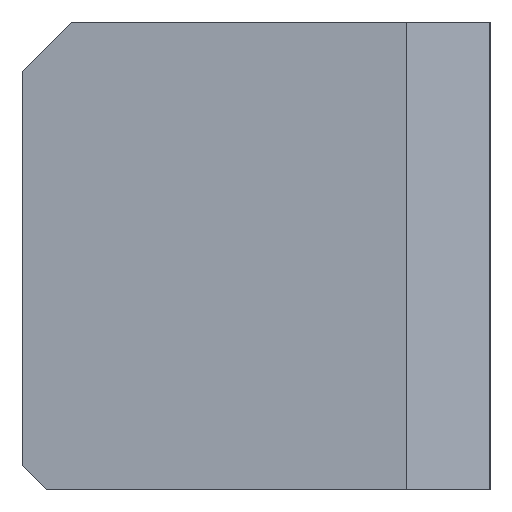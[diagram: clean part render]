
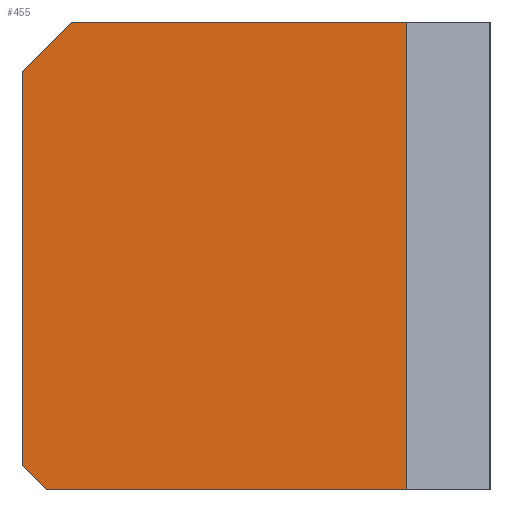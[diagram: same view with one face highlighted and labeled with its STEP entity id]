
A CAD part, left-side view. The second image highlights one B-rep face of the part: STEP entity #455.
In plain terms, the highlighted planar face has unit normal (-1, 0, 0).
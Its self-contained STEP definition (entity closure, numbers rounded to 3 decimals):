
#455=ADVANCED_FACE('',(#2199),#1337,.T.);
#1337=PLANE('',#18666);
#2199=FACE_OUTER_BOUND('',#3075,.T.);
#3075=EDGE_LOOP('',(#6344,#6345,#6346,#6347,#6348,#6349));
#6344=ORIENTED_EDGE('',*,*,#12858,.F.);
#6345=ORIENTED_EDGE('',*,*,#12859,.T.);
#6346=ORIENTED_EDGE('',*,*,#12216,.T.);
#6347=ORIENTED_EDGE('',*,*,#12857,.T.);
#6348=ORIENTED_EDGE('',*,*,#11568,.T.);
#6349=ORIENTED_EDGE('',*,*,#12860,.T.);
#9823=VERTEX_POINT('',#25681);
#9824=VERTEX_POINT('',#25683);
#10260=VERTEX_POINT('',#26768);
#10261=VERTEX_POINT('',#26769);
#10688=VERTEX_POINT('',#27840);
#10689=VERTEX_POINT('',#27841);
#11568=EDGE_CURVE('',#9824,#9823,#14156,.T.);
#12216=EDGE_CURVE('',#10260,#10261,#14794,.T.);
#12857=EDGE_CURVE('',#10261,#9824,#15435,.T.);
#12858=EDGE_CURVE('',#10688,#10689,#15436,.T.);
#12859=EDGE_CURVE('',#10688,#10260,#15437,.T.);
#12860=EDGE_CURVE('',#9823,#10689,#15438,.T.);
#14156=LINE('',#25682,#16718);
#14794=LINE('',#26767,#17356);
#15435=LINE('',#27837,#17997);
#15436=LINE('',#27839,#17998);
#15437=LINE('',#27842,#17999);
#15438=LINE('',#27843,#18000);
#16718=VECTOR('',#20645,1.);
#17356=VECTOR('',#21305,1.);
#17997=VECTOR('',#21948,1.);
#17998=VECTOR('',#21951,1.);
#17999=VECTOR('',#21952,1.);
#18000=VECTOR('',#21953,1.);
#18666=AXIS2_PLACEMENT_3D('',#27844,#21954,#21955);
#20645=DIRECTION('',(0.,1.,0.));
#21305=DIRECTION('',(0.,-1.,0.));
#21948=DIRECTION('',(0.,0.,1.));
#21951=DIRECTION('',(0.,0.,1.));
#21952=DIRECTION('',(0.,-0.707,-0.707));
#21953=DIRECTION('',(0.,0.707,-0.707));
#21954=DIRECTION('',(-1.,0.,0.));
#21955=DIRECTION('',(0.,0.,1.));
#25681=CARTESIAN_POINT('',(-497.408,7.5,4.));
#25682=CARTESIAN_POINT('',(-497.408,1.688,4.));
#25683=CARTESIAN_POINT('',(-497.408,-6.125,4.));
#26767=CARTESIAN_POINT('',(-497.408,1.688,-15.));
#26768=CARTESIAN_POINT('',(-497.408,8.5,-15.));
#26769=CARTESIAN_POINT('',(-497.408,-6.125,-15.));
#27837=CARTESIAN_POINT('',(-497.408,-6.125,-15.));
#27839=CARTESIAN_POINT('',(-497.408,9.5,-15.));
#27840=CARTESIAN_POINT('',(-497.408,9.5,-14.));
#27841=CARTESIAN_POINT('',(-497.408,9.5,2.));
#27842=CARTESIAN_POINT('',(-497.408,5.094,-18.406));
#27843=CARTESIAN_POINT('',(-497.408,14.094,-2.594));
#27844=CARTESIAN_POINT('',(-497.408,1.688,-15.));
